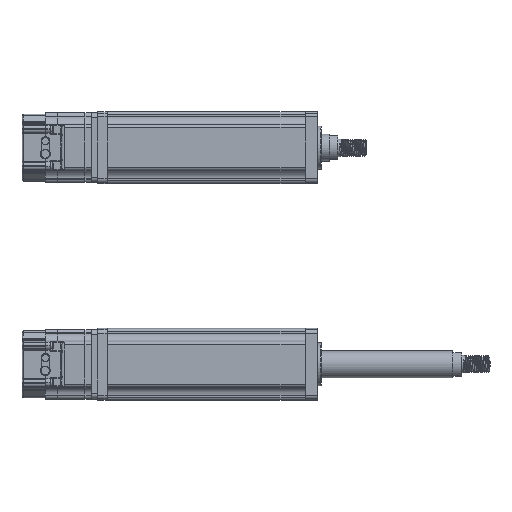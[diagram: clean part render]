
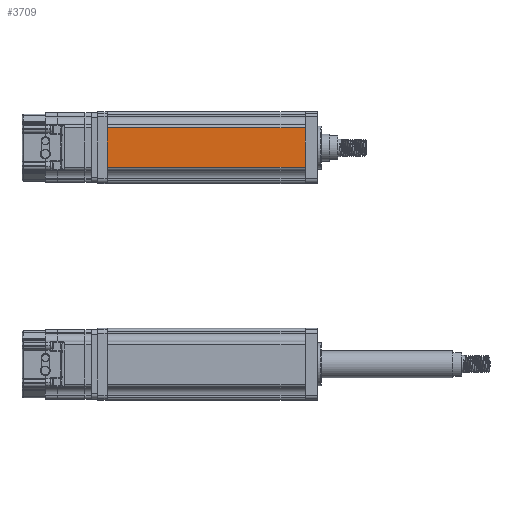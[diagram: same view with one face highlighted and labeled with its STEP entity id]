
A CAD part, top view. The second image highlights one B-rep face of the part: STEP entity #3709.
In plain terms, the highlighted planar face has unit normal (0, 0, 1).
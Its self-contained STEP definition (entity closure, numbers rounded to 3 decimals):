
#3709=ADVANCED_FACE('',(#8308),#8309,.F.);
#8308=FACE_OUTER_BOUND('',#16956,.T.);
#8309=PLANE('',#16957);
#16956=EDGE_LOOP('',(#34196,#34197,#34198,#34199));
#16957=AXIS2_PLACEMENT_3D('',#34200,#34201,#34202);
#34196=ORIENTED_EDGE('',*,*,#48676,.F.);
#34197=ORIENTED_EDGE('',*,*,#47582,.F.);
#34198=ORIENTED_EDGE('',*,*,#48677,.F.);
#34199=ORIENTED_EDGE('',*,*,#48678,.F.);
#34200=CARTESIAN_POINT('',(604.0,182.885,13.684));
#34201=DIRECTION('',(0.,0.,-1.0));
#34202=DIRECTION('',(1.0,0.,0.));
#47582=EDGE_CURVE('',#56351,#56353,#56354,.T.);
#48676=EDGE_CURVE('',#56353,#58043,#58044,.T.);
#48677=EDGE_CURVE('',#58045,#56351,#58046,.T.);
#48678=EDGE_CURVE('',#58043,#58045,#58047,.T.);
#56351=VERTEX_POINT('',#80573);
#56353=VERTEX_POINT('',#80575);
#56354=LINE('',#80576,#80577);
#58043=VERTEX_POINT('',#85786);
#58044=LINE('',#85787,#85788);
#58045=VERTEX_POINT('',#85789);
#58046=LINE('',#85790,#85791);
#58047=LINE('',#85792,#85793);
#80573=CARTESIAN_POINT('',(764.0,182.885,13.684));
#80575=CARTESIAN_POINT('',(764.0,150.885,13.684));
#80576=CARTESIAN_POINT('',(764.0,166.885,13.684));
#80577=VECTOR('',#108576,1.0);
#85786=CARTESIAN_POINT('',(604.0,150.885,13.684));
#85787=CARTESIAN_POINT('',(684.0,150.885,13.684));
#85788=VECTOR('',#109724,1.0);
#85789=CARTESIAN_POINT('',(604.0,182.885,13.684));
#85790=CARTESIAN_POINT('',(684.0,182.885,13.684));
#85791=VECTOR('',#109725,1.0);
#85792=CARTESIAN_POINT('',(604.0,166.885,13.684));
#85793=VECTOR('',#109726,1.0);
#108576=DIRECTION('',(0.,-1.0,0.0));
#109724=DIRECTION('',(-1.0,0.,0.));
#109725=DIRECTION('',(1.0,0.,0.));
#109726=DIRECTION('',(0.,1.0,0.0));
